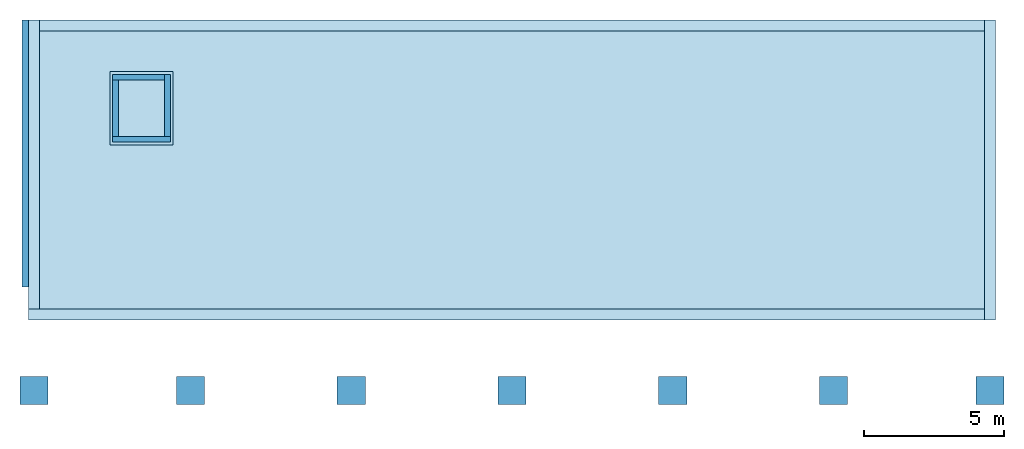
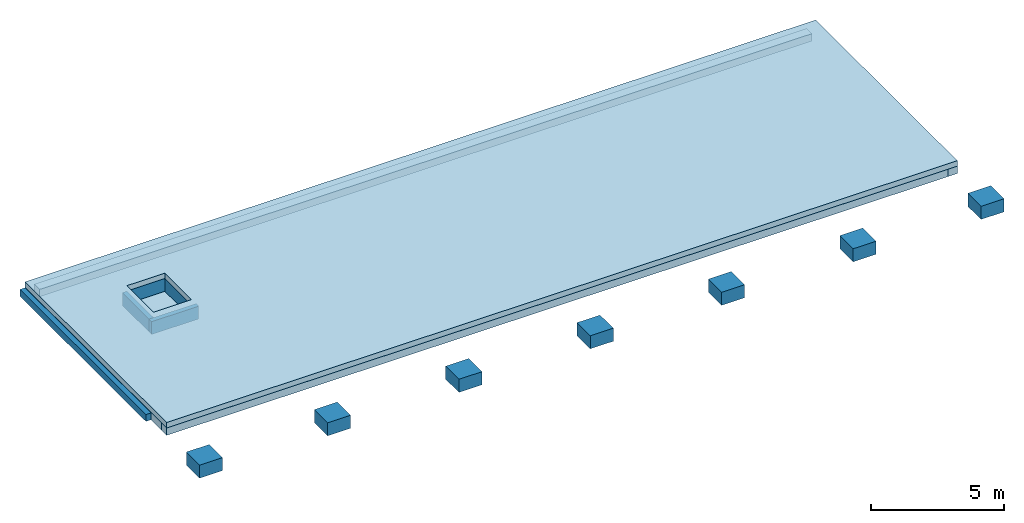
# One storey: 12 footings, 4 walls, 2 slabs.
"""IFC4 building model written with IfcOpenShell, lengths in metres."""

from ifc_helpers import new_model, entity, si_unit, converted_unit, derived_unit, frame, frame_2d, origin, origin_with_axes, place, context, subcontext, project, spatial, polyline, rectangle, outline, extrude, material, element, save


model = new_model("IFC4")

# Units and contexts
model_context = context("Model", 3, precision=1e-05, world=origin())
plan_context = context("Plan", 2, precision=1e-05, world=origin())
body_context = subcontext(model_context, "Body", "Model", "MODEL_VIEW")
ifc_project = project(units=[si_unit("LENGTHUNIT", "METRE"), si_unit("AREAUNIT", "SQUARE_METRE"), si_unit("VOLUMEUNIT", "CUBIC_METRE"), si_unit("MASSUNIT", "GRAM", prefix="KILO"), converted_unit("PLANEANGLEUNIT", "DEGREE", entity("IfcPlaneAngleMeasure", 0.0174532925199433), si_unit("PLANEANGLEUNIT", "RADIAN"), dimensions=[0, 0, 0, 0, 0, 0, 0]), derived_unit("THERMALTRANSMITTANCEUNIT", [(si_unit("POWERUNIT", "WATT"), 1), (si_unit("THERMODYNAMICTEMPERATUREUNIT", "KELVIN"), -1), (si_unit("LENGTHUNIT", "METRE"), -2)]), derived_unit("VOLUMETRICFLOWRATEUNIT", [(si_unit("LENGTHUNIT", "METRE"), 3), (converted_unit("TIMEUNIT", "hour", entity("IfcTimeMeasure", 3600.0), si_unit("TIMEUNIT", "SECOND"), dimensions=[0, 0, 1, 0, 0, 0, 0]), -1), (si_unit("LENGTHUNIT", "METRE"), -1)])], contexts=[model_context, plan_context])

# Site, building, storey
site_placement = place(None, origin())
site = spatial("IfcSite", under=ifc_project, at=site_placement, Name="Site", CompositionType="ELEMENT")
building_placement = place(site_placement, origin())
building = spatial("IfcBuilding", under=site, at=building_placement, Name="Admin", CompositionType="ELEMENT")
storey_placement = place(building_placement, frame((0.0, 0.0, -0.8)))
storey = spatial("IfcBuildingStorey", under=building, at=storey_placement, Name="-01-Fondations", CompositionType="ELEMENT", Elevation=-0.8)

# Footings
ifc_material_1 = material(Name="C30/37")
footing_1_placement = place(storey_placement, frame((23.8998005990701, 22.4494493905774, -0.05), z_axis=(0.0, 0.0, 1.0), x_axis=(0.0, -1.0, 0.0)))
element("IfcFooting", 1, at=footing_1_placement, inside=storey, material=ifc_material_1, Name="Axe 2.A", PredefinedType="STRIP_FOOTING", context=body_context, shape_type="SweptSolid", body=[
    extrude(rectangle(XDim=0.4, YDim=0.34, at=frame_2d((0.2, 0.17), x_axis=(1.0, 0.0))), frame((0.0, 0.0, 0.0), z_axis=(1.0, 0.0, 0.0), x_axis=(0.0, 1.0, 0.0)), (0.0, 0.0, 1.0), 10.28),
])
ifc_material_2 = material(Name="C30/37")
footing_2_placement = place(storey_placement, frame((23.8998005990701, 12.9494493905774, -0.05), z_axis=(0.0, 0.0, 1.0), x_axis=(0.0, 1.0, 0.0)))
element("IfcFooting", 2, at=footing_2_placement, inside=storey, material=ifc_material_2, Name="Axe 2.A", PredefinedType="STRIP_FOOTING", context=body_context, shape_type="SweptSolid", body=[
    extrude(rectangle(XDim=0.22, YDim=0.32, at=frame_2d((0.11, 0.16), x_axis=(1.0, 0.0))), frame((0.0, 0.0, 0.0), z_axis=(1.0, 0.0, 0.0), x_axis=(0.0, 1.0, 0.0)), (0.0, 0.0, 1.0), 9.5),
])
ifc_material_3 = material(Name="C30/37")
footing_3_placement = place(storey_placement, frame((58.3198001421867, 11.7694493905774, -0.05), z_axis=(0.0, 0.0, 1.0), x_axis=(0.0, 1.0, 0.0)))
element("IfcFooting", 3, at=footing_3_placement, inside=storey, material=ifc_material_3, Name="Axe 2.M", PredefinedType="STRIP_FOOTING", context=body_context, shape_type="SweptSolid", body=[
    extrude(rectangle(XDim=0.4, YDim=0.34, at=frame_2d((0.2, 0.17), x_axis=(1.0, 0.0))), frame((0.0, 0.0, 0.0), z_axis=(1.0, 0.0, 0.0), x_axis=(0.0, 1.0, 0.0)), (0.0, 0.0, 1.0), 10.68),
])
ifc_material_4 = material(Name="C30/37")
footing_4_placement = place(storey_placement, frame((23.8998005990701, 11.7694493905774, -0.05), z_axis=(0.0, 0.0, 1.0), x_axis=(1.0, -3.7427766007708e-16, 0.0)))
element("IfcFooting", 4, at=footing_4_placement, inside=storey, material=ifc_material_4, Name="Axe 2.2", PredefinedType="STRIP_FOOTING", context=body_context, shape_type="SweptSolid", body=[
    extrude(rectangle(XDim=0.399999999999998, YDim=0.34, at=frame_2d((0.199999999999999, 0.17), x_axis=(1.0, 0.0))), frame((0.0, 0.0, 0.0), z_axis=(1.0, 0.0, 0.0), x_axis=(0.0, 1.0, 0.0)), (0.0, 0.0, 1.0), 34.0199995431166),
])
ifc_material_5 = material(Name="C30/37")
footing_5_placement = place(storey_placement, frame((29.1698001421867, 8.76944939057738, -0.1)))
element("IfcFooting", 5, at=footing_5_placement, inside=storey, material=ifc_material_5, Name="SP.02", PredefinedType="PAD_FOOTING", context=body_context, shape_type="SweptSolid", body=[
    extrude(rectangle(XDim=1.0, YDim=1.0, at=frame_2d((0.5, 0.5), x_axis=(1.0, 0.0))), origin_with_axes(), (0.0, 0.0, 1.0), 0.6),
])
ifc_material_6 = material(Name="C30/37")
footing_6_placement = place(storey_placement, frame((23.5998005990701, 8.76944937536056, -0.1)))
element("IfcFooting", 6, at=footing_6_placement, inside=storey, material=ifc_material_6, Name="SP.01", PredefinedType="PAD_FOOTING", context=body_context, shape_type="SweptSolid", body=[
    extrude(rectangle(XDim=1.0, YDim=1.0, at=frame_2d((0.5, 0.5), x_axis=(1.0, 0.0))), origin_with_axes(), (0.0, 0.0, 1.0), 0.6),
])
ifc_material_7 = material(Name="C30/37")
footing_7_placement = place(storey_placement, frame((57.6198001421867, 8.76944937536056, -0.1)))
element("IfcFooting", 7, at=footing_7_placement, inside=storey, material=ifc_material_7, Name="SP.07", PredefinedType="PAD_FOOTING", context=body_context, shape_type="SweptSolid", body=[
    extrude(rectangle(XDim=1.0, YDim=1.0, at=frame_2d((0.5, 0.5), x_axis=(1.0, 0.0))), origin_with_axes(), (0.0, 0.0, 1.0), 0.6),
])
ifc_material_8 = material(Name="C30/37")
footing_8_placement = place(storey_placement, frame((52.0498005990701, 8.76944937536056, -0.1)))
element("IfcFooting", 8, at=footing_8_placement, inside=storey, material=ifc_material_8, Name="SP.06", PredefinedType="PAD_FOOTING", context=body_context, shape_type="SweptSolid", body=[
    extrude(rectangle(XDim=1.0, YDim=1.0, at=frame_2d((0.5, 0.5), x_axis=(1.0, 0.0))), origin_with_axes(), (0.0, 0.0, 1.0), 0.6),
])
ifc_material_9 = material(Name="C30/37")
footing_9_placement = place(storey_placement, frame((40.6098005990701, 8.76944937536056, -0.1)))
element("IfcFooting", 9, at=footing_9_placement, inside=storey, material=ifc_material_9, Name="SP.04", PredefinedType="PAD_FOOTING", context=body_context, shape_type="SweptSolid", body=[
    extrude(rectangle(XDim=1.0, YDim=1.0, at=frame_2d((0.5, 0.5), x_axis=(1.0, 0.0))), origin_with_axes(), (0.0, 0.0, 1.0), 0.6),
])
ifc_material_10 = material(Name="C30/37")
footing_10_placement = place(storey_placement, frame((34.8898005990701, 8.76944937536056, -0.1)))
element("IfcFooting", 10, at=footing_10_placement, inside=storey, material=ifc_material_10, Name="SP.03", PredefinedType="PAD_FOOTING", context=body_context, shape_type="SweptSolid", body=[
    extrude(rectangle(XDim=1.0, YDim=1.0, at=frame_2d((0.5, 0.5), x_axis=(1.0, 0.0))), origin_with_axes(), (0.0, 0.0, 1.0), 0.6),
])
ifc_material_11 = material(Name="C30/37")
footing_11_placement = place(storey_placement, frame((46.3298005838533, 8.76944937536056, -0.1)))
element("IfcFooting", 11, at=footing_11_placement, inside=storey, material=ifc_material_11, Name="SP.05", PredefinedType="PAD_FOOTING", context=body_context, shape_type="SweptSolid", body=[
    extrude(rectangle(XDim=1.0, YDim=1.0, at=frame_2d((0.5, 0.5), x_axis=(1.0, 0.0))), origin_with_axes(), (0.0, 0.0, 1.0), 0.6),
])
ifc_material_12 = material(Name="C30/37")
footing_12_placement = place(storey_placement, frame((57.9198001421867, 22.4494493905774, -0.05), z_axis=(0.0, 0.0, 1.0), x_axis=(-1.0, 0.0, 0.0)))
element("IfcFooting", 12, at=footing_12_placement, inside=storey, material=ifc_material_12, Name="Axe 2.6", PredefinedType="STRIP_FOOTING", context=body_context, shape_type="SweptSolid", body=[
    extrude(rectangle(XDim=0.4, YDim=0.34, at=frame_2d((0.2, 0.17), x_axis=(1.0, 0.0))), frame((0.0, 0.0, 0.0), z_axis=(1.0, 0.0, 0.0), x_axis=(0.0, 1.0, 0.0)), (0.0, 0.0, 1.0), 33.6199995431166),
])

# Slabs
ifc_material_13 = material(Name="C30/37")
slab_1_placement = place(storey_placement, frame((23.8998005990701, 11.7694493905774, 0.29)))
element("IfcSlab", 13, at=slab_1_placement, inside=storey, material=ifc_material_13, Name="Radier Admin", PredefinedType="BASESLAB", context=body_context, shape_type="SweptSolid", body=[
    extrude(outline(polyline([(0.0, 10.68), (0.0, 0.0), (34.4199995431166, 0.0), (34.4199995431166, 10.68), (0.0, 10.68)]), holes=[polyline([(4.85002895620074, 6.52999280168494), (3.20002895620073, 6.52999280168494), (3.20002895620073, 8.53999280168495), (4.85002895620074, 8.53999280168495), (4.85002895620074, 6.52999280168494)])]), origin_with_axes(), (0.0, 0.0, 1.0), 0.25),
])
ifc_material_14 = material(Name="C30/37")
slab_2_placement = place(storey_placement, frame((26.7998300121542, 17.9994421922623, -0.5)))
element("IfcSlab", 14, at=slab_2_placement, inside=storey, material=ifc_material_14, Name="Dalle fosse", PredefinedType="FLOOR", context=body_context, shape_type="SweptSolid", body=[
    extrude(rectangle(XDim=2.24999954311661, YDim=2.61000000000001, at=frame_2d((-1.12499977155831, -1.30500000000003), x_axis=(-1.0, -2.58700767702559e-14))), frame((2.24999954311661, 2.61000000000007, 0.0), z_axis=(0.0, 0.0, 1.0), x_axis=(1.0, 0.0, 0.0)), (0.0, 0.0, 1.0), 0.2),
])

# Walls
ifc_material_15 = material(Name="C30/37")
wall_1_placement = place(storey_placement, frame((26.8998300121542, 20.3094421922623, -0.3), z_axis=(0.0, 0.0, 1.0), x_axis=(-3.61987941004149e-15, -1.0, 0.0)))
element("IfcWall", 15, at=wall_1_placement, inside=storey, material=ifc_material_15, Name="Voiles Fosse", context=body_context, shape_type="SweptSolid", body=[
    extrude(rectangle(XDim=2.01000000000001, YDim=0.2, at=frame_2d((1.005, 0.1), x_axis=(1.0, 0.0))), origin_with_axes(), (0.0, 0.0, 1.0), 0.59),
])
ifc_material_16 = material(Name="C30/37")
wall_2_placement = place(storey_placement, frame((28.7498295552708, 20.5094421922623, -0.3), z_axis=(0.0, 0.0, 1.0), x_axis=(-1.0, -2.75306572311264e-14, 0.0)))
element("IfcWall", 16, at=wall_2_placement, inside=storey, material=ifc_material_16, Name="Voiles Fosse", context=body_context, shape_type="SweptSolid", body=[
    extrude(rectangle(XDim=1.84999954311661, YDim=0.2, at=frame_2d((0.924999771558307, 0.1), x_axis=(1.0, 0.0))), origin_with_axes(), (0.0, 0.0, 1.0), 0.59),
])
ifc_material_17 = material(Name="C30/37")
wall_3_placement = place(storey_placement, frame((28.9498295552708, 18.2994421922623, -0.3), z_axis=(0.0, 0.0, 1.0), x_axis=(0.0, 1.0, 0.0)))
element("IfcWall", 17, at=wall_3_placement, inside=storey, material=ifc_material_17, Name="Voiles Fosse", context=body_context, shape_type="SweptSolid", body=[
    extrude(rectangle(XDim=2.21000000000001, YDim=0.2, at=frame_2d((1.105, 0.1), x_axis=(1.0, 0.0))), origin_with_axes(), (0.0, 0.0, 1.0), 0.59),
])
ifc_material_18 = material(Name="C30/37")
wall_4_placement = place(storey_placement, frame((26.8998300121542, 18.0994421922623, -0.3), z_axis=(0.0, 0.0, 1.0), x_axis=(1.0, 2.8393987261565e-14, 0.0)))
element("IfcWall", 18, at=wall_4_placement, inside=storey, material=ifc_material_18, Name="Voiles Fosse", context=body_context, shape_type="SweptSolid", body=[
    extrude(rectangle(XDim=2.04999954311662, YDim=0.2, at=frame_2d((1.02499977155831, 0.1), x_axis=(1.0, 0.0))), origin_with_axes(), (0.0, 0.0, 1.0), 0.59),
])

save(model, "model.ifc")
